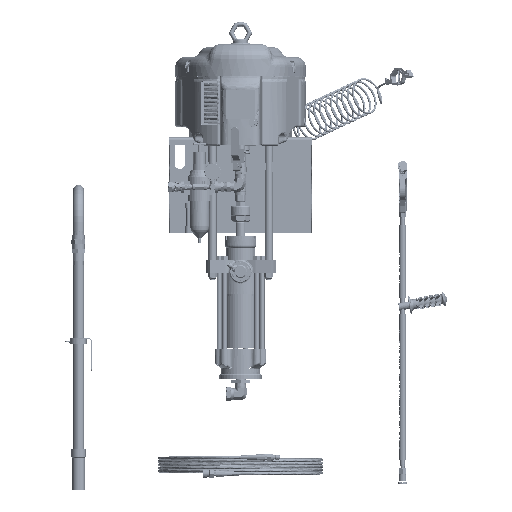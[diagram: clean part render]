
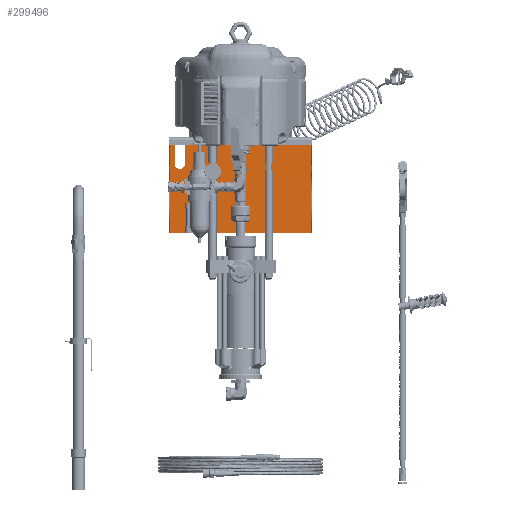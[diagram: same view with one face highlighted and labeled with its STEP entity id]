
A CAD part, top view. The second image highlights one B-rep face of the part: STEP entity #299496.
In plain terms, the highlighted planar face has unit normal (0, 0, 1).
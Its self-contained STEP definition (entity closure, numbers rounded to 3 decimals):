
#298165=DIRECTION('',(0.,1.,0.));
#298166=VECTOR('',#298165,11.39);
#298167=CARTESIAN_POINT('',(-8.875,-16.245,-7.82));
#298168=LINE('',#298167,#298166);
#298410=DIRECTION('',(1.,0.,0.));
#298411=VECTOR('',#298410,15.745);
#298412=CARTESIAN_POINT('',(-6.87,-4.855,-7.82));
#298413=LINE('',#298412,#298411);
#298419=DIRECTION('',(1.,0.,0.));
#298420=VECTOR('',#298419,0.755);
#298421=CARTESIAN_POINT('',(-8.875,-4.855,-7.82));
#298422=LINE('',#298421,#298420);
#298443=CARTESIAN_POINT('',(-7.495,-7.745,-7.82));
#298444=DIRECTION('',(0.,0.,-1.));
#298445=DIRECTION('',(1.,0.,0.));
#298446=AXIS2_PLACEMENT_3D('',#298443,#298444,#298445);
#298448=DIRECTION('',(0.,-1.,0.));
#298449=VECTOR('',#298448,2.89);
#298450=CARTESIAN_POINT('',(-6.87,-4.855,-7.82));
#298451=LINE('',#298450,#298449);
#298452=DIRECTION('',(1.,0.,0.));
#298453=VECTOR('',#298452,17.75);
#298454=CARTESIAN_POINT('',(-8.875,-16.245,-7.82));
#298455=LINE('',#298454,#298453);
#298456=DIRECTION('',(0.,-1.,0.));
#298457=VECTOR('',#298456,2.89);
#298458=CARTESIAN_POINT('',(-8.12,-4.855,-7.82));
#298459=LINE('',#298458,#298457);
#298468=DIRECTION('',(0.,1.,0.));
#298469=VECTOR('',#298468,11.39);
#298470=CARTESIAN_POINT('',(8.875,-16.245,-7.82));
#298471=LINE('',#298470,#298469);
#298606=CARTESIAN_POINT('',(-8.875,-16.245,-7.82));
#298607=CARTESIAN_POINT('',(-8.875,-4.855,-7.82));
#298608=VERTEX_POINT('',#298606);
#298609=VERTEX_POINT('',#298607);
#298610=CARTESIAN_POINT('',(8.875,-16.245,-7.82));
#298611=VERTEX_POINT('',#298610);
#298612=CARTESIAN_POINT('',(8.875,-4.855,-7.82));
#298613=VERTEX_POINT('',#298612);
#298664=CARTESIAN_POINT('',(-8.12,-4.855,-7.82));
#298666=VERTEX_POINT('',#298664);
#298668=CARTESIAN_POINT('',(-6.87,-4.855,-7.82));
#298670=VERTEX_POINT('',#298668);
#298680=CARTESIAN_POINT('',(-6.87,-7.745,-7.82));
#298681=CARTESIAN_POINT('',(-8.12,-7.745,-7.82));
#298682=VERTEX_POINT('',#298680);
#298683=VERTEX_POINT('',#298681);
#299479=CARTESIAN_POINT('',(-8.875,-16.245,-7.82));
#299480=DIRECTION('',(0.,0.,-1.));
#299481=DIRECTION('',(0.,1.,0.));
#299482=AXIS2_PLACEMENT_3D('',#299479,#299480,#299481);
#299483=PLANE('',#299482);
#299484=ORIENTED_EDGE('',*,*,#299140,.F.);
#299485=ORIENTED_EDGE('',*,*,#299474,.F.);
#299486=ORIENTED_EDGE('',*,*,#299396,.T.);
#299488=ORIENTED_EDGE('',*,*,#299487,.F.);
#299490=ORIENTED_EDGE('',*,*,#299489,.F.);
#299491=ORIENTED_EDGE('',*,*,#299174,.T.);
#299492=ORIENTED_EDGE('',*,*,#299407,.T.);
#299493=ORIENTED_EDGE('',*,*,#299123,.T.);
#299494=EDGE_LOOP('',(#299484,#299485,#299486,#299488,#299490,#299491,#299492,
#299493));
#299495=FACE_OUTER_BOUND('',#299494,.F.);
#299496=ADVANCED_FACE('',(#299495),#299483,.F.);
#298447=CIRCLE('',#298446,0.625);
#299123=EDGE_CURVE('',#298666,#298683,#298459,.T.);
#299140=EDGE_CURVE('',#298682,#298683,#298447,.T.);
#299174=EDGE_CURVE('',#298608,#298609,#298168,.T.);
#299396=EDGE_CURVE('',#298670,#298613,#298413,.T.);
#299407=EDGE_CURVE('',#298609,#298666,#298422,.T.);
#299474=EDGE_CURVE('',#298670,#298682,#298451,.T.);
#299487=EDGE_CURVE('',#298611,#298613,#298471,.T.);
#299489=EDGE_CURVE('',#298608,#298611,#298455,.T.);
